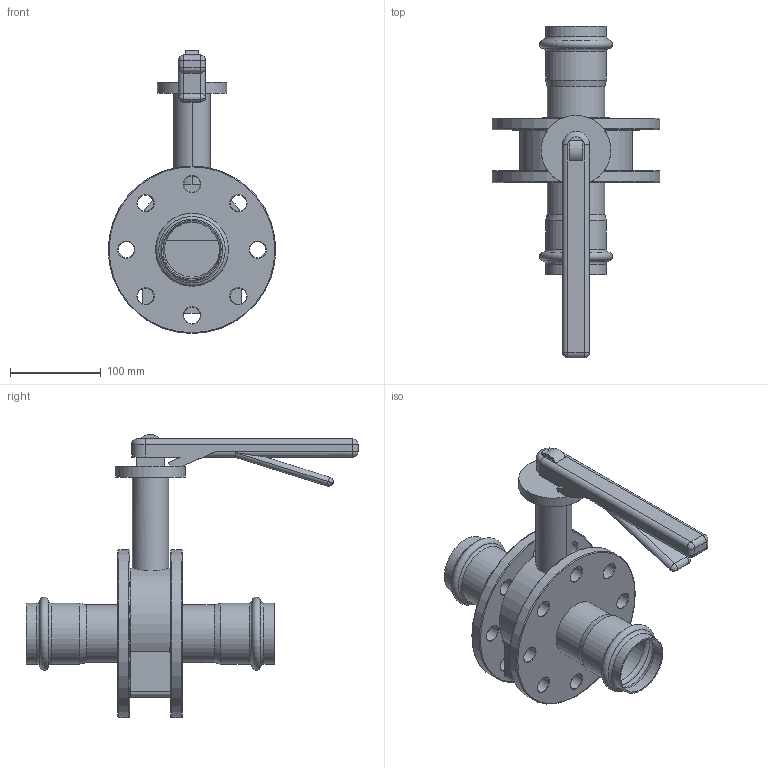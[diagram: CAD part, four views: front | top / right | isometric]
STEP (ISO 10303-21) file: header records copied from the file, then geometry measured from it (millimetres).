
FILE_DESCRIPTION(/* description */ (''),/* implementation_level */ '2;1');
FILE_NAME(/* name */ '51251060101.stp',/* time_stamp */ '2020-06-22T14:22:39+08:00',/* author */ (''),/* organization */ (''),/* preprocessor_version */ 'ST-DEVELOPER v11',/* originating_system */ 'SIEMENS PLM Software NX 7.5',/* authorisation */ '');
FILE_SCHEMA (('CONFIG_CONTROL_DESIGN'));
Length unit declared in the file: millimetre
Products named in the file (1): Admi4F60b41n
Bounding box: 185 x 366.5 x 312.5 mm (x, y, z)
Volume: 1697221.9 mm3; surface area: 313235.2 mm2
Topology: 3 solids, 3 shells, 181 faces, 405 edges, 242 vertices
Faces by surface type: cylinder 53, cone 48, plane 45, torus 27, sphere 8
Full cylindrical faces by diameter (mm): 18 x16, 60.5 x2, 63.5 x2, 64.3 x4, 67.3 x4, 185 x2
Entity records: 4518 total; most frequent: DIRECTION 826, CARTESIAN_POINT 741, ORIENTED_EDGE 570, AXIS2_PLACEMENT_3D 367, EDGE_LOOP 335, EDGE_CURVE 285, FACE_BOUND 276, VERTEX_POINT 226
